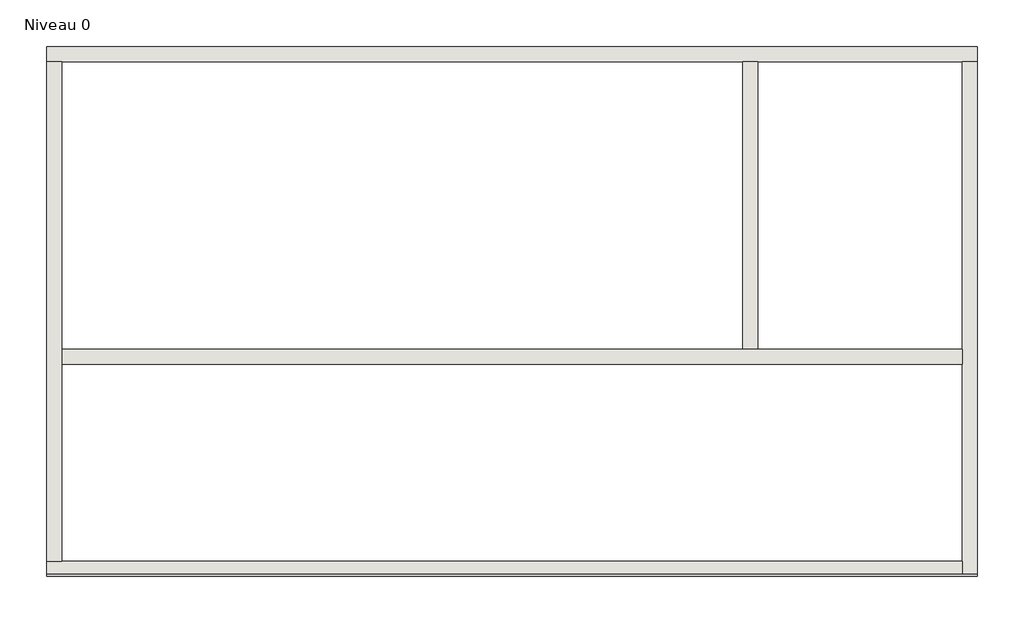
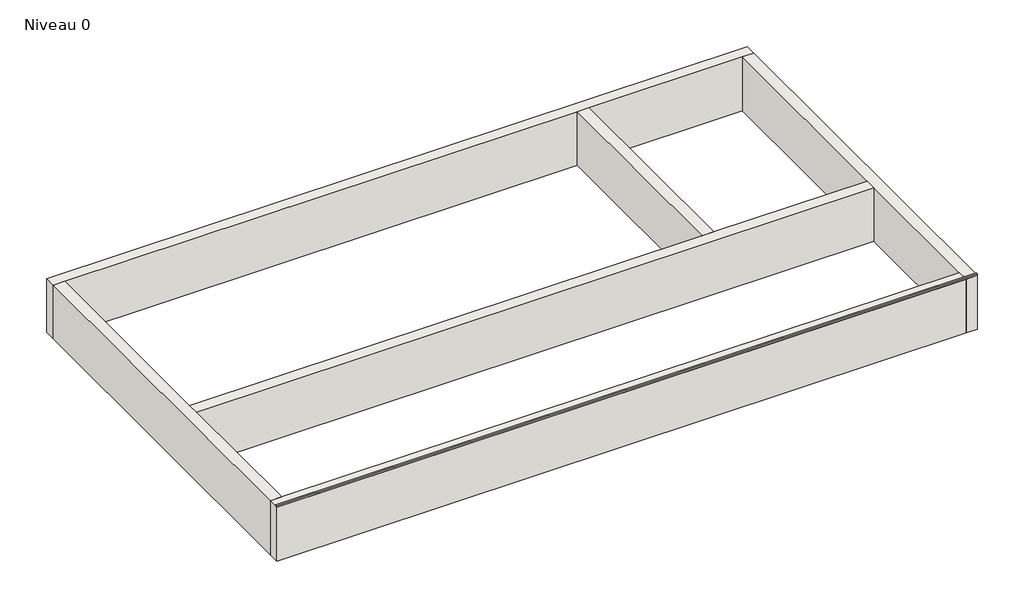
# One storey: 6 walls, 1 proxy.
"""IFC4 building model written with IfcOpenShell, lengths in millimetres."""

import ifcopenshell
import ifcopenshell.guid

model = None  # the IFC model being written
_history = None  # IfcOwnerHistory: only IFC2X3 demands one
_inside = {}  # id of a spatial element -> (the spatial element, [elements in it])
_under = {}  # id of a project, library or spatial element -> (it, [spatial elements below it])
_declared = {}  # id of a project -> (the project, [libraries it declares])
_typed = {}  # id of a type object -> (the type object, [elements of that type])
_made_of = {}  # id of a material, layer set ... -> (it, [elements and type objects made of it])


def new_model(schema):
    """Start an empty IFC model of exactly this schema.

    Asked for "IFC4X3", IfcOpenShell would pick the latest addendum, in which some entities
    have other attributes; the version numbers below select the first issue.
    IFC2X3 requires an IfcOwnerHistory on every rooted entity: one is made here for all.
    """
    global model, _history
    if schema == "IFC4X3":
        model = ifcopenshell.file(schema_version=(4, 3, 0, 0))
    else:
        model = ifcopenshell.file(schema=schema)
    _inside.clear()
    _under.clear()
    _declared.clear()
    _typed.clear()
    _made_of.clear()
    _history = None
    if model.schema == "IFC2X3":
        org = make("IfcOrganization", Name="unknown")
        user = make(
            "IfcPersonAndOrganization",
            ThePerson=make("IfcPerson", FamilyName="unknown"),
            TheOrganization=org,
        )
        app = make(
            "IfcApplication",
            ApplicationDeveloper=org,
            Version="unknown",
            ApplicationFullName="unknown",
            ApplicationIdentifier="unknown",
        )
        _history = make(
            "IfcOwnerHistory",
            OwningUser=user,
            OwningApplication=app,
            ChangeAction="ADDED",
            CreationDate=0,
        )
    return model


def make(cls, **values):
    """One entity of the class cls with the attributes given. An attribute that is None is left unset."""
    return model.create_entity(
        cls, **{name: value for name, value in values.items() if value is not None}
    )


def rooted(cls, **values):
    """An entity with a GlobalId (a new one), such as an element, a storey or a relation."""
    return make(cls, GlobalId=ifcopenshell.guid.new(), OwnerHistory=_history, **values)


def si_unit(unit_type, name, prefix=None):
    """IfcSIUnit, for example si_unit("LENGTHUNIT", "METRE", prefix="MILLI")."""
    return make("IfcSIUnit", UnitType=unit_type, Prefix=prefix, Name=name)


def assignment(units):
    """IfcUnitAssignment: the units of a project."""
    return None if units is None else make("IfcUnitAssignment", Units=units)


def point(xyz):
    """IfcCartesianPoint."""
    return None if xyz is None else make("IfcCartesianPoint", Coordinates=xyz)


def direction(xyz):
    """IfcDirection."""
    return None if xyz is None else make("IfcDirection", DirectionRatios=xyz)


def frame(location, z_axis=None, x_axis=None):
    """IfcAxis2Placement3D, a coordinate frame: its origin and axes. An axis left out is left unset."""
    return make(
        "IfcAxis2Placement3D",
        Location=point(location),
        Axis=direction(z_axis),
        RefDirection=direction(x_axis),
    )


def origin():
    """The frame at (0, 0, 0) with its axes left unset."""
    return frame((0.0, 0.0, 0.0))


def origin_with_axes():
    """The frame at (0, 0, 0) with the z axis (0, 0, 1) and the x axis (1, 0, 0) written out."""
    return frame((0.0, 0.0, 0.0), z_axis=(0.0, 0.0, 1.0), x_axis=(1.0, 0.0, 0.0))


def place(relative_to, where):
    """IfcLocalPlacement: puts the frame where relative to a parent placement (None: the world)."""
    return make(
        "IfcLocalPlacement", PlacementRelTo=relative_to, RelativePlacement=where
    )


def context(
    kind, dimensions, precision=None, world=None, true_north=None, identifier=None
):
    """IfcGeometricRepresentationContext, for example the 3D "Model" context."""
    return make(
        "IfcGeometricRepresentationContext",
        ContextIdentifier=identifier,
        ContextType=kind,
        CoordinateSpaceDimension=dimensions,
        Precision=precision,
        WorldCoordinateSystem=world,
        TrueNorth=true_north,
    )


def project(units=None, contexts=None):
    """IfcProject with its units and contexts."""
    return rooted(
        "IfcProject",
        Name="project",
        RepresentationContexts=contexts,
        UnitsInContext=assignment(units),
    )


def spatial(cls, under=None, at=None, **own):
    """A site, building, storey or space (cls), placed at a placement, below another one or the project."""
    s = rooted(cls, ObjectPlacement=at, **own)
    if under is not None:
        _under.setdefault(under.id(), (under, []))[1].append(s)
    return s


def polyline(points):
    """IfcPolyline through the points."""
    return make("IfcPolyline", Points=[point(p) for p in points])


def outline(outer, holes=None, kind="AREA"):
    """IfcArbitraryClosedProfileDef: a profile drawn as a closed curve; with holes, ...WithVoids."""
    if holes is None:
        return make("IfcArbitraryClosedProfileDef", ProfileType=kind, OuterCurve=outer)
    return make(
        "IfcArbitraryProfileDefWithVoids",
        ProfileType=kind,
        OuterCurve=outer,
        InnerCurves=holes,
    )


def extrude(swept, where, along, depth):
    """IfcExtrudedAreaSolid: the profile swept, set in the frame where, extruded along a direction by depth."""
    return make(
        "IfcExtrudedAreaSolid",
        SweptArea=swept,
        Position=where,
        ExtrudedDirection=direction(along),
        Depth=depth,
    )


def faces_of(points, faces, orient=None, outer=None):
    """IfcFace entities. A face is a list of loops; a loop is a list of indices into points, from 0.

    orient and outer hold one flag for each loop. By default every Orientation is true, the
    first loop of a face is its IfcFaceOuterBound and the others are IfcFaceBound.
    """
    made = []
    for i, loops in enumerate(faces):
        bounds = []
        for j, loop in enumerate(loops):
            is_outer = j == 0 if outer is None else outer[i][j]
            bounds.append(
                make(
                    "IfcFaceOuterBound" if is_outer else "IfcFaceBound",
                    Bound=make("IfcPolyLoop", Polygon=[points[k] for k in loop]),
                    Orientation=True if orient is None else orient[i][j],
                )
            )
        made.append(make("IfcFace", Bounds=bounds))
    return made


def faceted_brep(points, faces, orient=None, outer=None, voids=None):
    """IfcFacetedBrep: a solid bounded by flat faces; with voids (closed shells), ...WithVoids."""
    shared = [point(p) for p in points]
    hull = make("IfcClosedShell", CfsFaces=faces_of(shared, faces, orient, outer))
    if voids is None:
        return make("IfcFacetedBrep", Outer=hull)
    return make(
        "IfcFacetedBrepWithVoids",
        Outer=hull,
        Voids=[
            make(cls, CfsFaces=faces_of(shared, fs, o, b)) for cls, fs, o, b in voids
        ],
    )


def shape(context_of_items, identifier, shape_type, items):
    """IfcShapeRepresentation: the items that make up one representation, for example the "Body"."""
    return make(
        "IfcShapeRepresentation",
        ContextOfItems=context_of_items,
        RepresentationIdentifier=identifier,
        RepresentationType=shape_type,
        Items=items,
    )


def made_of(thing, what):
    """Note that an element or type object is made of a material, layer set ...; save() writes the relation."""
    if what is not None:
        _made_of.setdefault(what.id(), (what, []))[1].append(thing)
    return thing


def element(
    cls,
    number,
    at=None,
    inside=None,
    cuts=None,
    type_object=None,
    material=None,
    context=None,
    identifier="Body",
    shape_type=None,
    held_by="IfcProductDefinitionShape",
    body=None,
    shapes=None,
    **own,
):
    """One element of the class cls, such as IfcWall. Its Tag is "e" and its number.

    at: its placement. inside: the storey or other place that contains it. cuts: it is an
    opening in that element (IfcRelVoidsElement). A single representation is given by context,
    identifier, shape_type and body (its items); several are given by shapes. held_by: the class
    of the entity that holds the representations. save() writes the other relations.
    """
    e = rooted(cls, Tag="e%d" % number, ObjectPlacement=at, **own)
    if body is not None:
        shapes = [shape(context, identifier, shape_type, body)]
    if shapes is not None:
        e.Representation = make(held_by, Representations=shapes)
    if inside is not None:
        _inside.setdefault(inside.id(), (inside, []))[1].append(e)
    if cuts is not None:
        rooted(
            "IfcRelVoidsElement", RelatingBuildingElement=cuts, RelatedOpeningElement=e
        )
    if type_object is not None:
        _typed.setdefault(type_object.id(), (type_object, []))[1].append(e)
    return made_of(e, material)


def aggregate(whole, parts):
    """IfcRelAggregates: a whole, such as a stair, and the parts it consists of."""
    return rooted("IfcRelAggregates", RelatingObject=whole, RelatedObjects=parts)


def save(model, path):
    """Write the relations noted so far, then the file.

    IfcRelAggregates (storeys below a building ...), IfcRelContainedInSpatialStructure (elements
    in a storey), IfcRelDefinesByType, IfcRelAssociatesMaterial and IfcRelDeclares: one each for
    every whole, place, type object, material and project.
    """
    for whole, parts in _under.values():
        aggregate(whole, parts)
    for where, things in _inside.values():
        rooted(
            "IfcRelContainedInSpatialStructure",
            RelatedElements=things,
            RelatingStructure=where,
        )
    for kind, things in _typed.values():
        rooted("IfcRelDefinesByType", RelatedObjects=things, RelatingType=kind)
    for what, things in _made_of.values():
        rooted("IfcRelAssociatesMaterial", RelatedObjects=things, RelatingMaterial=what)
    for by, libraries in _declared.values():
        rooted("IfcRelDeclares", RelatingContext=by, RelatedDefinitions=libraries)
    model.write(path)


model = new_model("IFC4")

# Units and contexts
model_context = context("Model", 3, world=origin())
ifc_project = project(units=[si_unit("LENGTHUNIT", "METRE", prefix="MILLI")], contexts=[model_context])

# Site, building, storey
site = spatial("IfcSite", under=ifc_project)
building = spatial("IfcBuilding", under=site)
storey = spatial("IfcBuildingStorey", under=building, Name="Niveau 0", Elevation=0.0)

# Proxy
placement = place(None, origin())
element("IfcBuildingElementProxy", 1, Name="Profil en creux", ObjectType="Profil en creux", at=placement, inside=storey, context=model_context, shape_type="SweptSolid", body=[
    extrude(outline(polyline([(-5053.9493613, 1030.0), (-5023.9493613, 1030.0), (-5023.9493613, 1010.0), (-5034.555963, 1020.6066017), (-5034.555963, 1000.0), (-5053.9493613, 1000.0), (-5053.9493613, 1030.0)])), frame((2868.5031637, 0.0, 0.0), z_axis=(1.0, 0.0, 0.0), x_axis=(0.0, 1.0, 0.0)), (0.0, 0.0, 1.0), 12300.0),
])

# Walls
element("IfcWall", 2, ObjectType="Ext. Voile BA 20", at=placement, inside=storey, context=model_context, shape_type="Brep", body=[
    faceted_brep([(2868.5031637, 1746.0506387, 0.0), (3068.5031637, 1746.0506387, 0.0), (12068.5031637, 1746.0506387, 0.0), (12268.5031637, 1746.0506387, 0.0), (14968.5031637, 1746.0506387, 0.0), (15168.5031637, 1746.0506387, 0.0), (15168.5031637, 1746.0506387, 1000.0), (14968.5031637, 1746.0506387, 1000.0), (12268.5031637, 1746.0506387, 1000.0), (12068.5031637, 1746.0506387, 1000.0), (3068.5031637, 1746.0506387, 1000.0), (2868.5031637, 1746.0506387, 1000.0), (2868.5031637, 1946.0506387, 0.0), (2868.5031637, 1946.0506387, 1000.0), (15168.5031637, 1946.0506387, 1000.0), (15168.5031637, 1946.0506387, 0.0)], [[[0, 1, 2, 3, 4, 5, 6, 7, 8, 9, 10, 11]], [[12, 13, 14, 15]], [[5, 4, 3, 2, 1, 0, 12, 15]], [[11, 10, 9, 8, 7, 6, 14, 13]], [[6, 5, 15, 14]], [[0, 11, 13, 12]]]),
])
element("IfcWall", 3, ObjectType="Ext. Voile BA 20", at=placement, inside=storey, context=model_context, shape_type="Brep", body=[
    faceted_brep([(14968.5031637, 1746.0506387, 0.0), (14968.5031637, -2053.9493613, 0.0), (14968.5031637, -2253.9493613, 0.0), (14968.5031637, -4853.9493613, 0.0), (14968.5031637, -5053.9493613, 0.0), (14968.5031637, -5053.9493613, 1000.0), (14968.5031637, -4853.9493613, 1000.0), (14968.5031637, -2253.9493613, 1000.0), (14968.5031637, -2053.9493613, 1000.0), (14968.5031637, 1746.0506387, 1000.0), (15168.5031637, 1746.0506387, 0.0), (15168.5031637, 1746.0506387, 1000.0), (15168.5031637, -5053.9493613, 1000.0), (15168.5031637, -5053.9493613, 0.0)], [[[0, 1, 2, 3, 4, 5, 6, 7, 8, 9]], [[10, 11, 12, 13]], [[4, 3, 2, 1, 0, 10, 13]], [[9, 8, 7, 6, 5, 12, 11]], [[0, 9, 11, 10]], [[5, 4, 13, 12]]]),
])
element("IfcWall", 4, ObjectType="Ext. Voile BA 20", at=placement, inside=storey, context=model_context, shape_type="Brep", body=[
    faceted_brep([(14968.5031637, -4853.9493613, 0.0), (3068.5031637, -4853.9493613, 0.0), (2868.5031637, -4853.9493613, 0.0), (2868.5031637, -4853.9493613, 1000.0), (3068.5031637, -4853.9493613, 1000.0), (14968.5031637, -4853.9493613, 1000.0), (14968.5031637, -5053.9493613, 0.0), (14968.5031637, -5053.9493613, 1000.0), (2868.5031637, -5053.9493613, 1000.0), (2868.5031637, -5053.9493613, 0.0)], [[[0, 1, 2, 3, 4, 5]], [[6, 7, 8, 9]], [[2, 1, 0, 6, 9]], [[5, 4, 3, 8, 7]], [[0, 5, 7, 6]], [[3, 2, 9, 8]]]),
])
element("IfcWall", 5, ObjectType="Ext. Voile BA 20", at=placement, inside=storey, context=model_context, shape_type="Brep", body=[
    faceted_brep([(3068.5031637, -4853.9493613, 0.0), (3068.5031637, -2253.9493613, 0.0), (3068.5031637, -2053.9493613, 0.0), (3068.5031637, 1746.0506387, 0.0), (3068.5031637, 1746.0506387, 1000.0), (3068.5031637, -2053.9493613, 1000.0), (3068.5031637, -2253.9493613, 1000.0), (3068.5031637, -4853.9493613, 1000.0), (2868.5031637, -4853.9493613, 0.0), (2868.5031637, -4853.9493613, 1000.0), (2868.5031637, 1746.0506387, 1000.0), (2868.5031637, 1746.0506387, 0.0)], [[[0, 1, 2, 3, 4, 5, 6, 7]], [[8, 9, 10, 11]], [[3, 2, 1, 0, 8, 11]], [[7, 6, 5, 4, 10, 9]], [[0, 7, 9, 8]], [[4, 3, 11, 10]]]),
])
element("IfcWall", 6, ObjectType="Ext. Voile BA 20", at=placement, inside=storey, context=model_context, shape_type="Brep", body=[
    faceted_brep([(3068.5031637, -2253.9493613, 0.0), (14968.5031637, -2253.9493613, 0.0), (14968.5031637, -2253.9493613, 1000.0), (3068.5031637, -2253.9493613, 1000.0), (3068.5031637, -2053.9493613, 0.0), (3068.5031637, -2053.9493613, 1000.0), (12068.5031637, -2053.9493613, 1000.0), (12268.5031637, -2053.9493613, 1000.0), (14968.5031637, -2053.9493613, 1000.0), (14968.5031637, -2053.9493613, 0.0), (12268.5031637, -2053.9493613, 0.0), (12068.5031637, -2053.9493613, 0.0)], [[[0, 1, 2, 3]], [[4, 5, 6, 7, 8, 9, 10, 11]], [[1, 0, 4, 11, 10, 9]], [[3, 2, 8, 7, 6, 5]], [[2, 1, 9, 8]], [[0, 3, 5, 4]]]),
])
element("IfcWall", 7, ObjectType="Ext. Voile BA 20", at=placement, inside=storey, context=model_context, shape_type="SweptSolid", body=[
    extrude(outline(polyline([(12068.5031637, -2053.9493613), (12068.5031637, 1746.0506387), (12268.5031637, 1746.0506387), (12268.5031637, -2053.9493613), (12068.5031637, -2053.9493613)])), origin_with_axes(), (0.0, 0.0, 1.0), 1000.0),
])

save(model, "model.ifc")
